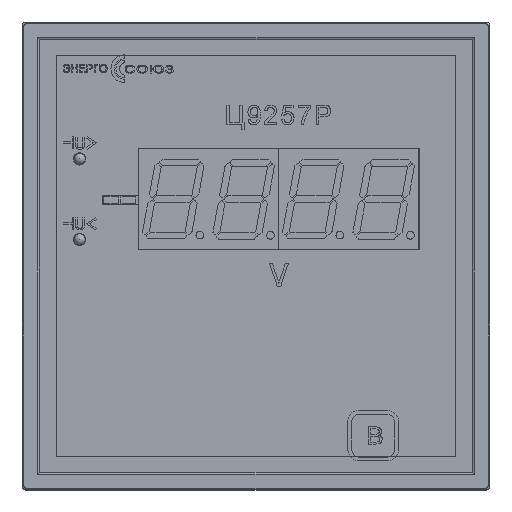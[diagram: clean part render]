
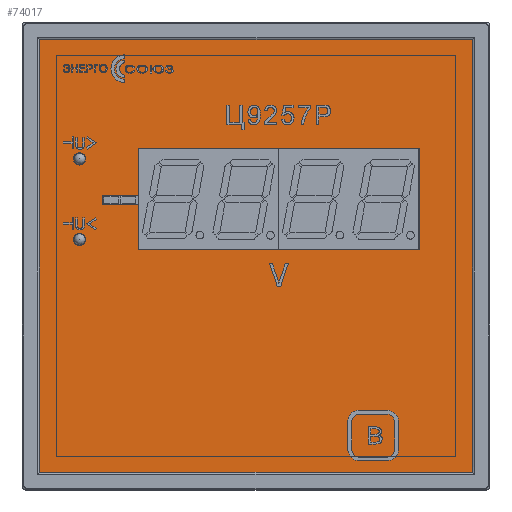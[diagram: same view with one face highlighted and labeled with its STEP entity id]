
A CAD part, top view. The second image highlights one B-rep face of the part: STEP entity #74017.
In plain terms, the highlighted planar face has unit normal (0, 0, 1).
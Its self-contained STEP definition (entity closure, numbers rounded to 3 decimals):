
#825 = CARTESIAN_POINT ( 'NONE',  ( 55.5, 55.5, 0.2 ) ) ;
#1200 = CARTESIAN_POINT ( 'NONE',  ( -30.049, 27.637, 0.2 ) ) ;
#2458 = DIRECTION ( 'NONE',  ( 0., -1., 0. ) ) ;
#2537 = CARTESIAN_POINT ( 'NONE',  ( -30.049, 13.175, 0.2 ) ) ;
#2551 = ORIENTED_EDGE ( 'NONE', *, *, #38157, .F. ) ;
#3104 = VERTEX_POINT ( 'NONE', #9829 ) ;
#3178 = CARTESIAN_POINT ( 'NONE',  ( -46.812, 4.243, 0.2 ) ) ;
#3695 = AXIS2_PLACEMENT_3D ( 'NONE', #16250, #69416, #42348 ) ;
#3853 = CARTESIAN_POINT ( 'NONE',  ( -55.5, -55.5, 0.2 ) ) ;
#4379 = CARTESIAN_POINT ( 'NONE',  ( 41.951, 27.637, 0.2 ) ) ;
#4915 = CARTESIAN_POINT ( 'NONE',  ( -30.049, 15.524, 0.2 ) ) ;
#6434 = CIRCLE ( 'NONE', #3695, 1.571 ) ;
#6555 = VECTOR ( 'NONE', #60411, 1000. ) ;
#7416 = EDGE_CURVE ( 'NONE', #22955, #60785, #11351, .T. ) ;
#8588 = ORIENTED_EDGE ( 'NONE', *, *, #7416, .T. ) ;
#9708 = ORIENTED_EDGE ( 'NONE', *, *, #83384, .T. ) ;
#9824 = CARTESIAN_POINT ( 'NONE',  ( -39.339, 15.524, 0.2 ) ) ;
#9829 = CARTESIAN_POINT ( 'NONE',  ( -30.049, 1.725, 0.2 ) ) ;
#10434 = DIRECTION ( 'NONE',  ( 1., 0., 0. ) ) ;
#11351 = LINE ( 'NONE', #31019, #27631 ) ;
#11570 = ORIENTED_EDGE ( 'NONE', *, *, #58352, .F. ) ;
#11772 = DIRECTION ( 'NONE',  ( 1., 0., 0. ) ) ;
#12321 = DIRECTION ( 'NONE',  ( 0., 0., 1. ) ) ;
#12476 = ORIENTED_EDGE ( 'NONE', *, *, #20051, .F. ) ;
#14839 = CIRCLE ( 'NONE', #62818, 1.571 ) ;
#16193 = CARTESIAN_POINT ( 'NONE',  ( -46.807, 24.89, 0.2 ) ) ;
#16250 = CARTESIAN_POINT ( 'NONE',  ( -45.236, 24.89, 0.2 ) ) ;
#16459 = EDGE_LOOP ( 'NONE', ( #2551, #48265 ) ) ;
#16571 = LINE ( 'NONE', #4915, #76565 ) ;
#16850 = DIRECTION ( 'NONE',  ( 0., 0., 1. ) ) ;
#17124 = DIRECTION ( 'NONE',  ( 0., 0., 1. ) ) ;
#18152 = CARTESIAN_POINT ( 'NONE',  ( -39.339, 13.175, 0.2 ) ) ;
#18341 = FACE_OUTER_BOUND ( 'NONE', #71891, .T. ) ;
#20051 = EDGE_CURVE ( 'NONE', #46924, #3104, #22436, .T. ) ;
#20850 = CIRCLE ( 'NONE', #26442, 1.571 ) ;
#21389 = AXIS2_PLACEMENT_3D ( 'NONE', #3853, #42755, #82285 ) ;
#21565 = VERTEX_POINT ( 'NONE', #51443 ) ;
#21592 = CARTESIAN_POINT ( 'NONE',  ( 55.5, -55.5, 0.2 ) ) ;
#21864 = CIRCLE ( 'NONE', #67287, 1.571 ) ;
#22436 = LINE ( 'NONE', #27998, #46252 ) ;
#22955 = VERTEX_POINT ( 'NONE', #58655 ) ;
#23503 = DIRECTION ( 'NONE',  ( 1., 0., 0. ) ) ;
#23808 = VECTOR ( 'NONE', #56206, 1000. ) ;
#24065 = LINE ( 'NONE', #31373, #79625 ) ;
#24698 = EDGE_LOOP ( 'NONE', ( #29743, #44323 ) ) ;
#24725 = FACE_BOUND ( 'NONE', #50613, .T. ) ;
#25336 = CARTESIAN_POINT ( 'NONE',  ( -55.5, 55.5, 0.2 ) ) ;
#25392 = EDGE_CURVE ( 'NONE', #59513, #22955, #25575, .T. ) ;
#25404 = ORIENTED_EDGE ( 'NONE', *, *, #56312, .T. ) ;
#25575 = LINE ( 'NONE', #65562, #36609 ) ;
#25769 = DIRECTION ( 'NONE',  ( 1., 0., 0. ) ) ;
#25919 = CARTESIAN_POINT ( 'NONE',  ( -45.241, 4.243, 0.2 ) ) ;
#25995 = EDGE_CURVE ( 'NONE', #58294, #29685, #14839, .T. ) ;
#26442 = AXIS2_PLACEMENT_3D ( 'NONE', #62329, #16850, #10434 ) ;
#27507 = DIRECTION ( 'NONE',  ( -1., 0., 0. ) ) ;
#27631 = VECTOR ( 'NONE', #11772, 1000. ) ;
#27998 = CARTESIAN_POINT ( 'NONE',  ( -30.049, 1.725, 0.2 ) ) ;
#29685 = VERTEX_POINT ( 'NONE', #39849 ) ;
#29743 = ORIENTED_EDGE ( 'NONE', *, *, #43079, .F. ) ;
#30675 = ORIENTED_EDGE ( 'NONE', *, *, #30802, .F. ) ;
#30802 = EDGE_CURVE ( 'NONE', #81152, #75821, #35056, .T. ) ;
#31019 = CARTESIAN_POINT ( 'NONE',  ( -55.5, -55.5, 0.2 ) ) ;
#31373 = CARTESIAN_POINT ( 'NONE',  ( -39.339, 13.175, 0.2 ) ) ;
#31808 = ORIENTED_EDGE ( 'NONE', *, *, #47535, .F. ) ;
#31880 = CARTESIAN_POINT ( 'NONE',  ( -30.049, 13.175, 0.2 ) ) ;
#32752 = DIRECTION ( 'NONE',  ( 1., 0., 0. ) ) ;
#33029 = VECTOR ( 'NONE', #32752, 1000. ) ;
#34988 = EDGE_CURVE ( 'NONE', #83017, #63214, #42109, .T. ) ;
#35056 = LINE ( 'NONE', #9824, #6555 ) ;
#35389 = ORIENTED_EDGE ( 'NONE', *, *, #44329, .F. ) ;
#36609 = VECTOR ( 'NONE', #51750, 1000. ) ;
#37881 = VECTOR ( 'NONE', #46513, 1000. ) ;
#37942 = CARTESIAN_POINT ( 'NONE',  ( -39.339, 15.524, 0.2 ) ) ;
#37969 = DIRECTION ( 'NONE',  ( 1., 0., 0. ) ) ;
#38007 = PLANE ( 'NONE',  #21389 ) ;
#38157 = EDGE_CURVE ( 'NONE', #52321, #68441, #6434, .T. ) ;
#39849 = CARTESIAN_POINT ( 'NONE',  ( -43.67, 4.243, 0.2 ) ) ;
#40165 = DIRECTION ( 'NONE',  ( 0., 1., 0. ) ) ;
#40362 = EDGE_CURVE ( 'NONE', #63214, #81152, #16571, .T. ) ;
#41809 = CARTESIAN_POINT ( 'NONE',  ( -43.665, 24.89, 0.2 ) ) ;
#42109 = LINE ( 'NONE', #78751, #37881 ) ;
#42348 = DIRECTION ( 'NONE',  ( 1., 0., 0. ) ) ;
#42755 = DIRECTION ( 'NONE',  ( 0., 0., 1. ) ) ;
#43079 = EDGE_CURVE ( 'NONE', #29685, #58294, #21864, .T. ) ;
#43553 = VECTOR ( 'NONE', #25769, 1000. ) ;
#44323 = ORIENTED_EDGE ( 'NONE', *, *, #25995, .F. ) ;
#44329 = EDGE_CURVE ( 'NONE', #74337, #46924, #51151, .T. ) ;
#44807 = CARTESIAN_POINT ( 'NONE',  ( 41.951, 27.637, 0.2 ) ) ;
#45072 = LINE ( 'NONE', #64908, #43553 ) ;
#45460 = CARTESIAN_POINT ( 'NONE',  ( 55.5, 55.5, 0.2 ) ) ;
#46252 = VECTOR ( 'NONE', #74825, 1000. ) ;
#46513 = DIRECTION ( 'NONE',  ( -1., 0., 0. ) ) ;
#46803 = CARTESIAN_POINT ( 'NONE',  ( -55.5, 55.5, 0.2 ) ) ;
#46924 = VERTEX_POINT ( 'NONE', #2537 ) ;
#47535 = EDGE_CURVE ( 'NONE', #21565, #83017, #71185, .T. ) ;
#47969 = ORIENTED_EDGE ( 'NONE', *, *, #25392, .T. ) ;
#48265 = ORIENTED_EDGE ( 'NONE', *, *, #80561, .F. ) ;
#49275 = ORIENTED_EDGE ( 'NONE', *, *, #34988, .F. ) ;
#50613 = EDGE_LOOP ( 'NONE', ( #11570, #30675, #72651, #49275, #31808, #64120, #12476, #35389 ) ) ;
#51151 = LINE ( 'NONE', #31880, #33029 ) ;
#51443 = CARTESIAN_POINT ( 'NONE',  ( 41.951, 1.725, 0.2 ) ) ;
#51750 = DIRECTION ( 'NONE',  ( 0., -1., 0. ) ) ;
#52321 = VERTEX_POINT ( 'NONE', #41809 ) ;
#52645 = LINE ( 'NONE', #825, #60069 ) ;
#54800 = CARTESIAN_POINT ( 'NONE',  ( -30.049, 15.524, 0.2 ) ) ;
#56206 = DIRECTION ( 'NONE',  ( 0., 1., 0. ) ) ;
#56312 = EDGE_CURVE ( 'NONE', #60785, #84263, #52645, .T. ) ;
#58294 = VERTEX_POINT ( 'NONE', #3178 ) ;
#58352 = EDGE_CURVE ( 'NONE', #75821, #74337, #24065, .T. ) ;
#58655 = CARTESIAN_POINT ( 'NONE',  ( -55.5, -55.5, 0.2 ) ) ;
#59513 = VERTEX_POINT ( 'NONE', #25336 ) ;
#60069 = VECTOR ( 'NONE', #40165, 1000. ) ;
#60348 = EDGE_CURVE ( 'NONE', #3104, #21565, #45072, .T. ) ;
#60411 = DIRECTION ( 'NONE',  ( -1., 0., 0. ) ) ;
#60785 = VERTEX_POINT ( 'NONE', #21592 ) ;
#62329 = CARTESIAN_POINT ( 'NONE',  ( -45.236, 24.89, 0.2 ) ) ;
#62818 = AXIS2_PLACEMENT_3D ( 'NONE', #68616, #17124, #23503 ) ;
#63214 = VERTEX_POINT ( 'NONE', #1200 ) ;
#63381 = FACE_BOUND ( 'NONE', #24698, .T. ) ;
#63816 = FACE_BOUND ( 'NONE', #16459, .T. ) ;
#64120 = ORIENTED_EDGE ( 'NONE', *, *, #60348, .F. ) ;
#64908 = CARTESIAN_POINT ( 'NONE',  ( 41.951, 1.725, 0.2 ) ) ;
#65562 = CARTESIAN_POINT ( 'NONE',  ( -55.5, 55.5, 0.2 ) ) ;
#67287 = AXIS2_PLACEMENT_3D ( 'NONE', #25919, #12321, #37969 ) ;
#67453 = LINE ( 'NONE', #46803, #78799 ) ;
#68441 = VERTEX_POINT ( 'NONE', #16193 ) ;
#68616 = CARTESIAN_POINT ( 'NONE',  ( -45.241, 4.243, 0.2 ) ) ;
#69416 = DIRECTION ( 'NONE',  ( 0., 0., 1. ) ) ;
#71185 = LINE ( 'NONE', #4379, #23808 ) ;
#71891 = EDGE_LOOP ( 'NONE', ( #47969, #8588, #25404, #9708 ) ) ;
#72651 = ORIENTED_EDGE ( 'NONE', *, *, #40362, .F. ) ;
#74017 = ADVANCED_FACE ( 'NONE', ( #24725, #63816, #63381, #18341 ), #38007, .T. ) ;
#74337 = VERTEX_POINT ( 'NONE', #18152 ) ;
#74825 = DIRECTION ( 'NONE',  ( 0., -1., 0. ) ) ;
#75821 = VERTEX_POINT ( 'NONE', #37942 ) ;
#76565 = VECTOR ( 'NONE', #2458, 1000. ) ;
#77293 = DIRECTION ( 'NONE',  ( 0., -1., 0. ) ) ;
#78751 = CARTESIAN_POINT ( 'NONE',  ( -30.049, 27.637, 0.2 ) ) ;
#78799 = VECTOR ( 'NONE', #27507, 1000. ) ;
#79625 = VECTOR ( 'NONE', #77293, 1000. ) ;
#80561 = EDGE_CURVE ( 'NONE', #68441, #52321, #20850, .T. ) ;
#81152 = VERTEX_POINT ( 'NONE', #54800 ) ;
#82285 = DIRECTION ( 'NONE',  ( 1., 0., 0. ) ) ;
#83017 = VERTEX_POINT ( 'NONE', #44807 ) ;
#83384 = EDGE_CURVE ( 'NONE', #84263, #59513, #67453, .T. ) ;
#84263 = VERTEX_POINT ( 'NONE', #45460 ) ;
